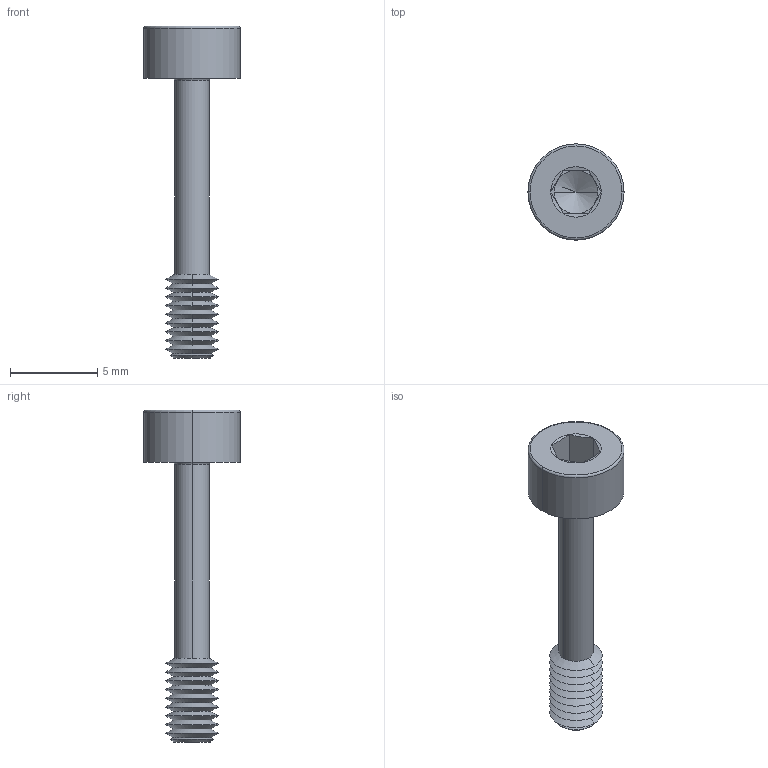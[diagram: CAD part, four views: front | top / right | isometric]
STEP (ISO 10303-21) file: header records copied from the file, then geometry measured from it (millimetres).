
FILE_DESCRIPTION (( 'STEP AP203' ), '1' );
FILE_NAME ('P0154.030-016-BL.step', '2024-06-17T11:22:49', ( '' ), ( '' ), 'SwSTEP 2.0', 'SolidWorks 2019', '' );
FILE_SCHEMA (( 'CONFIG_CONTROL_DESIGN' ));
Length unit declared in the file: millimetre
Products named in the file (1): P0154.030-016-BL
Bounding box: 5.5 x 5.5 x 19 mm (x, y, z)
Volume: 116.4 mm3; surface area: 267.2 mm2
Topology: 1 solids, 1 shells, 71 faces, 144 edges, 75 vertices
Faces by surface type: cone 48, plane 15, torus 4, cylinder 4
Entity records: 1887 total; most frequent: DIRECTION 352, CARTESIAN_POINT 315, ORIENTED_EDGE 284, AXIS2_PLACEMENT_3D 144, EDGE_CURVE 142, VERTEX_POINT 75, EDGE_LOOP 73, CIRCLE 72
